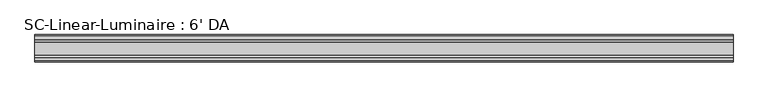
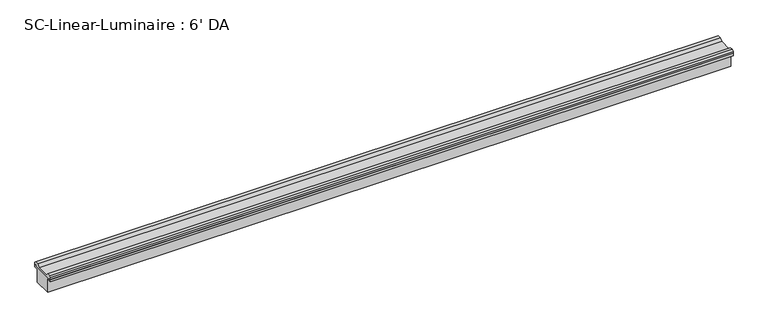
"""IFC4 building model written with IfcOpenShell, lengths in millimetres: light fixture geometry, SC-Linear-Luminaire : 6' DA."""

from ifc_helpers import new_model, si_unit, frame, origin, place, context, project, spatial, polyline, outline, extrude, source, transform, mapped, element, save


def sc_linear_luminaire_6_da_861f9beb(model_context):
    return source(origin(), model_context, "Body", "SweptSolid", [
        extrude(outline(polyline([(33.02, 66.5757209), (33.02, 60.325), (22.225, 60.325), (22.225, 26.45), (-22.225, 26.45), (-22.225, 60.325), (-33.02, 60.325), (-33.02, 66.5757209), (-29.845, 66.5757209), (-29.845, 62.6426128), (29.845, 62.6426128), (29.845, 66.5757209), (33.02, 66.5757209)])), frame((-838.2, 0.0, 0.0), z_axis=(1.0, 0.0, 0.0), x_axis=(0.0, 1.0, 0.0)), (0.0, 0.0, 1.0), 1676.4),
        extrude(outline(polyline([(33.02, 66.5757209), (29.845, 66.5757209), (29.845, 62.6426128), (-29.845, 62.6426128), (-29.845, 66.5757209), (-33.02, 66.5757209), (-33.02, 71.1228225), (-29.3990509, 74.7437716), (-21.7203311, 74.7437716), (-15.3703311, 68.3937716), (15.3532116, 68.3937716), (21.7032116, 74.7437716), (29.3990509, 74.7437716), (33.02, 71.1228225), (33.02, 66.5757209)])), frame((-838.2, 0.0, 0.0), z_axis=(1.0, 0.0, 0.0), x_axis=(0.0, 1.0, 0.0)), (0.0, 0.0, 1.0), 1676.4),
    ])


if __name__ == "__main__":
    model = new_model("IFC4")
    model_context = context("Model", 3, world=origin())
    ifc_project = project(units=[si_unit("LENGTHUNIT", "METRE", prefix="MILLI")], contexts=[model_context])
    site = spatial("IfcSite", under=ifc_project)
    building = spatial("IfcBuilding", under=site)
    placement = place(None, origin())
    sc_linear_luminaire_6_da_shape = sc_linear_luminaire_6_da_861f9beb(model_context)
    element("IfcLightFixture", 1, ObjectType="SC-Linear-Luminaire : 6' DA", at=placement, inside=building, context=model_context, shape_type="MappedRepresentation", body=[
        mapped(sc_linear_luminaire_6_da_shape, transform((0.0, 0.0, 0.0), x_axis=(1.0, 0.0, 0.0), y_axis=(0.0, 1.0, 0.0), z_axis=(0.0, 0.0, 1.0))),
    ])
    save(model, "model.ifc")
